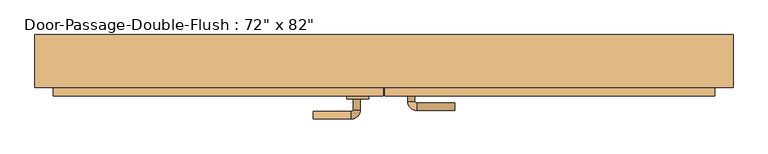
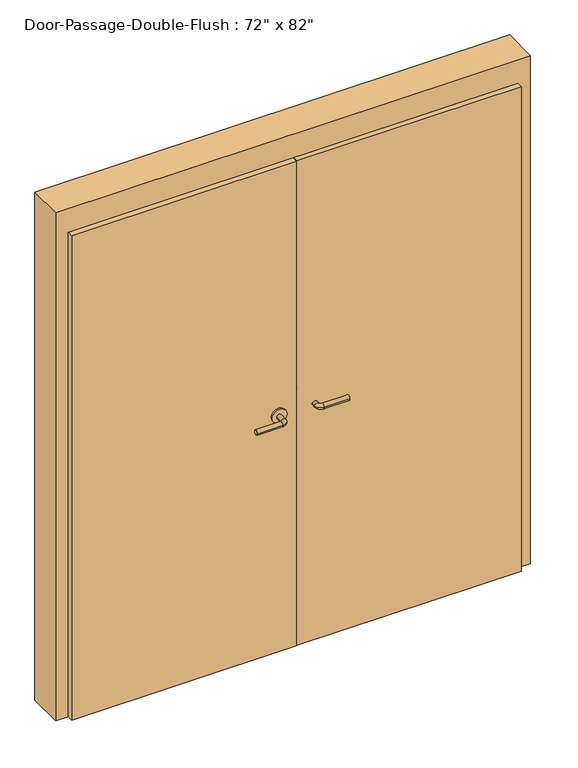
"""IFC4 building model written with IfcOpenShell, lengths in millimetres: door geometry."""

from ifc_helpers import new_model, si_unit, point, frame, frame_2d, origin, origin_with_axes, place, context, project, spatial, polyline, circle_curve, ellipse_curve, trimmed, segment, composite_curve, outline, extrude, faceted_brep, source, transform, mapped, element, save
from ifc_brep_helpers import plane_surface, cylinder_surface, revolved_surface, advanced_brep


def door_df8e76c5(model_context):
    return source(origin(), model_context, "Body", "SolidModel", [
        advanced_brep(
        [(-65.009375, -6.2875, 1016.0), (-85.009375, -6.2875, 1016.0), (-85.009375, 23.7125, 1016.0), (-65.009375, 23.7125, 1016.0), (-90.009375, 28.7125, 1016.0), (-90.009375, 48.7125, 1016.0), (-195.009375, 48.7125, 1016.0), (-195.009375, 28.7125, 1016.0)],
        [
            (0, 1, circle_curve(frame((-75.009375, -6.2875, 1016.0), z_axis=(0.0, -1.0, 0.0), x_axis=(-1.0, 0.0, 0.0)), 10.0)),
            (1, 0, circle_curve(frame((-75.009375, -6.2875, 1016.0), z_axis=(0.0, -1.0, 0.0), x_axis=(-1.0, 0.0, 0.0)), 10.0)),
            (1, 2),
            (2, 3, circle_curve(frame((-75.009375, 23.7125, 1016.0), z_axis=(0.0, -1.0, 0.0), x_axis=(-1.0, 0.0, 0.0)), 10.0)),
            (3, 0),
            (3, 2, circle_curve(frame((-75.009375, 23.7125, 1016.0), z_axis=(0.0, -1.0, 0.0), x_axis=(-1.0, 0.0, 0.0)), 10.0)),
            (4, 5, circle_curve(frame((-90.009375, 38.7125, 1016.0), z_axis=(1.0, 0.0, 0.0), x_axis=(0.0, -1.0, 0.0)), 10.0)),
            (5, 3, circle_curve(frame((-90.009375, 23.7125, 1016.0), z_axis=(0.0, 0.0, -1.0), x_axis=(1.0, 0.0, 0.0)), 25.0)),
            (2, 4, circle_curve(frame((-90.009375, 23.7125, 1016.0), z_axis=(0.0, 0.0, 1.0), x_axis=(1.0, 0.0, 0.0)), 5.0)),
            (5, 4, circle_curve(frame((-90.009375, 38.7125, 1016.0), z_axis=(1.0, 0.0, 0.0), x_axis=(0.0, -1.0, 0.0)), 10.0)),
            (6, 7, circle_curve(frame((-195.009375, 38.7125, 1016.0), z_axis=(-1.0, 0.0, 0.0), x_axis=(0.0, -1.0, 0.0)), 10.0)),
            (7, 6, circle_curve(frame((-195.009375, 38.7125, 1016.0), z_axis=(-1.0, 0.0, 0.0), x_axis=(0.0, -1.0, 0.0)), 10.0)),
            (4, 7),
            (6, 5),
        ],
        [
            plane_surface(frame((-75.009375, -6.2875, 1016.0), z_axis=(0.0, -1.0, 0.0), x_axis=(0.0, 0.0, 1.0))),
            cylinder_surface(frame((-75.009375, -6.2875, 1016.0), z_axis=(0.0, -1.0, 0.0), x_axis=(-1.0, 0.0, 0.0)), 10.0),
            revolved_surface(trimmed(ellipse_curve(frame((-75.009375, 23.7125, 1016.0), z_axis=(0.0, 1.0, 0.0), x_axis=(-1.0, 0.0, 0.0)), 10.0, 10.0), [point((-65.009375, 23.7125, 1016.0))], [point((-85.009375, 23.7125, 1016.0))], True, "CARTESIAN"), (-90.009375, 23.7125, 1016.0), (0.0, 0.0, -1.0)),
            revolved_surface(trimmed(ellipse_curve(frame((-75.009375, 23.7125, 1016.0), z_axis=(0.0, 1.0, 0.0), x_axis=(-1.0, 0.0, 0.0)), 10.0, 10.0), [point((-85.009375, 23.7125, 1016.0))], [point((-65.009375, 23.7125, 1016.0))], True, "CARTESIAN"), (-90.009375, 23.7125, 1016.0), (0.0, 0.0, -1.0)),
            plane_surface(frame((-195.009375, 38.7125, 1016.0), z_axis=(-1.0, 0.0, 0.0), x_axis=(0.0, 0.0, 1.0))),
            cylinder_surface(frame((-90.009375, 38.7125, 1016.0), z_axis=(1.0, 0.0, 0.0), x_axis=(0.0, -1.0, 0.0)), 10.0),
        ],
        [
            (0, [[1, 2]]),
            (1, [[3, 4, 5, -2]]),
            (1, [[-5, 6, -3, -1]]),
            (2, [[7, 8, -4, 9]]),
            (3, [[10, -9, -6, -8]]),
            (4, [[11, 12]]),
            (5, [[13, -11, 14, -7]]),
            (5, [[-14, -12, -13, -10]]),
        ],
    ),
        extrude(outline(composite_curve([segment(trimmed(circle_curve(frame_2d((1016.0, -72.509375)), 30.0), [point((1016.0, -42.509375))], [point((1016.0, -102.509375))], False, "CARTESIAN"), True, "CONTINUOUS"), segment(trimmed(circle_curve(frame_2d((1016.0, -72.509375)), 30.0), [point((1016.0, -102.509375))], [point((1016.0, -42.509375))], False, "CARTESIAN"), True, "CONTINUOUS")], self_intersect=False)), frame((0.0, -14.2875, 0.0), z_axis=(0.0, 1.0, 0.0), x_axis=(0.0, 0.0, 1.0)), (0.0, 0.0, 1.0), 8.0),
        advanced_brep(
        [(-65.009375, -90.55, 1016.0), (-85.009375, -90.55, 1016.0), (-65.009375, -120.55, 1016.0), (-85.009375, -120.55, 1016.0), (-90.009375, -125.55, 1016.0), (-90.009375, -145.55, 1016.0), (-195.009375, -145.55, 1016.0), (-195.009375, -125.55, 1016.0)],
        [
            (0, 1, circle_curve(frame((-75.009375, -90.55, 1016.0), z_axis=(0.0, 1.0, 0.0), x_axis=(-1.0, 0.0, 0.0)), 10.0)),
            (1, 0, circle_curve(frame((-75.009375, -90.55, 1016.0), z_axis=(0.0, 1.0, 0.0), x_axis=(-1.0, 0.0, 0.0)), 10.0)),
            (0, 2),
            (2, 3, circle_curve(frame((-75.009375, -120.55, 1016.0), z_axis=(0.0, 1.0, 0.0), x_axis=(-1.0, 0.0, 0.0)), 10.0)),
            (3, 1),
            (3, 2, circle_curve(frame((-75.009375, -120.55, 1016.0), z_axis=(0.0, 1.0, 0.0), x_axis=(-1.0, 0.0, 0.0)), 10.0)),
            (4, 3, circle_curve(frame((-90.009375, -120.55, 1016.0), z_axis=(0.0, 0.0, 1.0), x_axis=(1.0, 0.0, 0.0)), 5.0)),
            (2, 5, circle_curve(frame((-90.009375, -120.55, 1016.0), z_axis=(0.0, 0.0, -1.0), x_axis=(1.0, 0.0, 0.0)), 25.0)),
            (5, 4, circle_curve(frame((-90.009375, -135.55, 1016.0), z_axis=(1.0, 0.0, 0.0), x_axis=(0.0, 1.0, 0.0)), 10.0)),
            (4, 5, circle_curve(frame((-90.009375, -135.55, 1016.0), z_axis=(1.0, 0.0, 0.0), x_axis=(0.0, 1.0, 0.0)), 10.0)),
            (6, 7, circle_curve(frame((-195.009375, -135.55, 1016.0), z_axis=(-1.0, 0.0, 0.0), x_axis=(0.0, 1.0, 0.0)), 10.0)),
            (7, 6, circle_curve(frame((-195.009375, -135.55, 1016.0), z_axis=(-1.0, 0.0, 0.0), x_axis=(0.0, 1.0, 0.0)), 10.0)),
            (5, 6),
            (7, 4),
        ],
        [
            plane_surface(frame((-75.009375, -90.55, 1016.0), z_axis=(0.0, 1.0, 0.0), x_axis=(0.0, 0.0, 1.0))),
            cylinder_surface(frame((-75.009375, -90.55, 1016.0), z_axis=(0.0, 1.0, 0.0), x_axis=(-1.0, 0.0, 0.0)), 10.0),
            revolved_surface(trimmed(ellipse_curve(frame((-75.009375, -120.55, 1016.0), z_axis=(0.0, 1.0, 0.0), x_axis=(-1.0, 0.0, 0.0)), 10.0, 10.0), [point((-65.009375, -120.55, 1016.0))], [point((-85.009375, -120.55, 1016.0))], True, "CARTESIAN"), (-90.009375, -120.55, 1016.0), (0.0, 0.0, -1.0)),
            revolved_surface(trimmed(ellipse_curve(frame((-75.009375, -120.55, 1016.0), z_axis=(0.0, 1.0, 0.0), x_axis=(-1.0, 0.0, 0.0)), 10.0, 10.0), [point((-85.009375, -120.55, 1016.0))], [point((-65.009375, -120.55, 1016.0))], True, "CARTESIAN"), (-90.009375, -120.55, 1016.0), (0.0, 0.0, -1.0)),
            plane_surface(frame((-195.009375, -135.55, 1016.0), z_axis=(-1.0, 0.0, 0.0), x_axis=(0.0, 0.0, 1.0))),
            cylinder_surface(frame((-90.009375, -135.55, 1016.0), z_axis=(1.0, 0.0, 0.0), x_axis=(0.0, 1.0, 0.0)), 10.0),
        ],
        [
            (0, [[1, 2]]),
            (1, [[-1, 3, 4, 5]]),
            (1, [[-2, -5, 6, -3]]),
            (2, [[7, -4, 8, 9]]),
            (3, [[-8, -6, -7, 10]]),
            (4, [[11, 12]]),
            (5, [[-9, 13, -12, 14]]),
            (5, [[-10, -14, -11, -13]]),
        ],
    ),
        extrude(outline(composite_curve([segment(trimmed(circle_curve(frame_2d((1016.0, -72.509375)), 30.0), [point((1016.0, -42.509375))], [point((1016.0, -102.509375))], False, "CARTESIAN"), True, "CONTINUOUS"), segment(trimmed(circle_curve(frame_2d((1016.0, -72.509375)), 30.0), [point((1016.0, -102.509375))], [point((1016.0, -42.509375))], False, "CARTESIAN"), True, "CONTINUOUS")], self_intersect=False)), frame((0.0, -90.55, 0.0), z_axis=(0.0, 1.0, 0.0), x_axis=(0.0, 0.0, 1.0)), (0.0, 0.0, 1.0), 8.0),
        advanced_brep(
        [(65.009375, -6.2875, 1016.0), (85.009375, -6.2875, 1016.0), (65.009375, 23.7125, 1016.0), (85.009375, 23.7125, 1016.0), (90.009375, 28.7125, 1016.0), (90.009375, 48.7125, 1016.0), (195.009375, 48.7125, 1016.0), (195.009375, 28.7125, 1016.0)],
        [
            (0, 1, circle_curve(frame((75.009375, -6.2875, 1016.0), z_axis=(0.0, -1.0, 0.0), x_axis=(1.0, 0.0, 0.0)), 10.0)),
            (1, 0, circle_curve(frame((75.009375, -6.2875, 1016.0), z_axis=(0.0, -1.0, 0.0), x_axis=(1.0, 0.0, 0.0)), 10.0)),
            (0, 2),
            (2, 3, circle_curve(frame((75.009375, 23.7125, 1016.0), z_axis=(0.0, -1.0, 0.0), x_axis=(1.0, 0.0, 0.0)), 10.0)),
            (3, 1),
            (3, 2, circle_curve(frame((75.009375, 23.7125, 1016.0), z_axis=(0.0, -1.0, 0.0), x_axis=(1.0, 0.0, 0.0)), 10.0)),
            (4, 3, circle_curve(frame((90.009375, 23.7125, 1016.0), z_axis=(0.0, 0.0, 1.0), x_axis=(-1.0, 0.0, 0.0)), 5.0)),
            (2, 5, circle_curve(frame((90.009375, 23.7125, 1016.0), z_axis=(0.0, 0.0, -1.0), x_axis=(-1.0, 0.0, 0.0)), 25.0)),
            (5, 4, circle_curve(frame((90.009375, 38.7125, 1016.0), z_axis=(-1.0, 0.0, 0.0), x_axis=(0.0, -1.0, 0.0)), 10.0)),
            (4, 5, circle_curve(frame((90.009375, 38.7125, 1016.0), z_axis=(-1.0, 0.0, 0.0), x_axis=(0.0, -1.0, 0.0)), 10.0)),
            (6, 7, circle_curve(frame((195.009375, 38.7125, 1016.0), z_axis=(1.0, 0.0, 0.0), x_axis=(0.0, -1.0, 0.0)), 10.0)),
            (7, 6, circle_curve(frame((195.009375, 38.7125, 1016.0), z_axis=(1.0, 0.0, 0.0), x_axis=(0.0, -1.0, 0.0)), 10.0)),
            (5, 6),
            (7, 4),
        ],
        [
            plane_surface(frame((75.009375, -6.2875, 1016.0), z_axis=(0.0, -1.0, 0.0), x_axis=(0.0, 0.0, 1.0))),
            cylinder_surface(frame((75.009375, -6.2875, 1016.0), z_axis=(0.0, -1.0, 0.0), x_axis=(1.0, 0.0, 0.0)), 10.0),
            revolved_surface(trimmed(ellipse_curve(frame((75.009375, 23.7125, 1016.0), z_axis=(0.0, -1.0, 0.0), x_axis=(1.0, 0.0, 0.0)), 10.0, 10.0), [point((65.009375, 23.7125, 1016.0))], [point((85.009375, 23.7125, 1016.0))], True, "CARTESIAN"), (90.009375, 23.7125, 1016.0), (0.0, 0.0, -1.0)),
            revolved_surface(trimmed(ellipse_curve(frame((75.009375, 23.7125, 1016.0), z_axis=(0.0, -1.0, 0.0), x_axis=(1.0, 0.0, 0.0)), 10.0, 10.0), [point((85.009375, 23.7125, 1016.0))], [point((65.009375, 23.7125, 1016.0))], True, "CARTESIAN"), (90.009375, 23.7125, 1016.0), (0.0, 0.0, -1.0)),
            plane_surface(frame((195.009375, 38.7125, 1016.0), z_axis=(1.0, 0.0, 0.0), x_axis=(0.0, 0.0, 1.0))),
            cylinder_surface(frame((90.009375, 38.7125, 1016.0), z_axis=(-1.0, 0.0, 0.0), x_axis=(0.0, -1.0, 0.0)), 10.0),
        ],
        [
            (0, [[1, 2]]),
            (1, [[-1, 3, 4, 5]]),
            (1, [[-2, -5, 6, -3]]),
            (2, [[7, -4, 8, 9]]),
            (3, [[-8, -6, -7, 10]]),
            (4, [[11, 12]]),
            (5, [[-9, 13, -12, 14]]),
            (5, [[-10, -14, -11, -13]]),
        ],
    ),
        extrude(outline(composite_curve([segment(trimmed(circle_curve(frame_2d((1016.0, 72.509375)), 30.0), [point((1016.0, 42.509375))], [point((1016.0, 102.509375))], False, "CARTESIAN"), True, "CONTINUOUS"), segment(trimmed(circle_curve(frame_2d((1016.0, 72.509375)), 30.0), [point((1016.0, 102.509375))], [point((1016.0, 42.509375))], False, "CARTESIAN"), True, "CONTINUOUS")], self_intersect=False)), frame((0.0, -14.2875, 0.0), z_axis=(0.0, 1.0, 0.0), x_axis=(0.0, 0.0, 1.0)), (0.0, 0.0, 1.0), 8.0),
        advanced_brep(
        [(65.009375, -66.7375, 1016.0), (85.009375, -66.7375, 1016.0), (85.009375, -96.7375, 1016.0), (65.009375, -96.7375, 1016.0), (90.009375, -101.7375, 1016.0), (90.009375, -121.7375, 1016.0), (195.009375, -121.7375, 1016.0), (195.009375, -101.7375, 1016.0)],
        [
            (0, 1, circle_curve(frame((75.009375, -66.7375, 1016.0), z_axis=(0.0, 1.0, 0.0), x_axis=(1.0, 0.0, 0.0)), 10.0)),
            (1, 0, circle_curve(frame((75.009375, -66.7375, 1016.0), z_axis=(0.0, 1.0, 0.0), x_axis=(1.0, 0.0, 0.0)), 10.0)),
            (1, 2),
            (2, 3, circle_curve(frame((75.009375, -96.7375, 1016.0), z_axis=(0.0, 1.0, 0.0), x_axis=(1.0, 0.0, 0.0)), 10.0)),
            (3, 0),
            (3, 2, circle_curve(frame((75.009375, -96.7375, 1016.0), z_axis=(0.0, 1.0, 0.0), x_axis=(1.0, 0.0, 0.0)), 10.0)),
            (4, 5, circle_curve(frame((90.009375, -111.7375, 1016.0), z_axis=(-1.0, 0.0, 0.0), x_axis=(0.0, 1.0, 0.0)), 10.0)),
            (5, 3, circle_curve(frame((90.009375, -96.7375, 1016.0), z_axis=(0.0, 0.0, -1.0), x_axis=(-1.0, 0.0, 0.0)), 25.0)),
            (2, 4, circle_curve(frame((90.009375, -96.7375, 1016.0), z_axis=(0.0, 0.0, 1.0), x_axis=(-1.0, 0.0, 0.0)), 5.0)),
            (5, 4, circle_curve(frame((90.009375, -111.7375, 1016.0), z_axis=(-1.0, 0.0, 0.0), x_axis=(0.0, 1.0, 0.0)), 10.0)),
            (6, 7, circle_curve(frame((195.009375, -111.7375, 1016.0), z_axis=(1.0, 0.0, 0.0), x_axis=(0.0, 1.0, 0.0)), 10.0)),
            (7, 6, circle_curve(frame((195.009375, -111.7375, 1016.0), z_axis=(1.0, 0.0, 0.0), x_axis=(0.0, 1.0, 0.0)), 10.0)),
            (4, 7),
            (6, 5),
        ],
        [
            plane_surface(frame((75.009375, -66.7375, 1016.0), z_axis=(0.0, 1.0, 0.0), x_axis=(0.0, 0.0, 1.0))),
            cylinder_surface(frame((75.009375, -66.7375, 1016.0), z_axis=(0.0, 1.0, 0.0), x_axis=(1.0, 0.0, 0.0)), 10.0),
            revolved_surface(trimmed(ellipse_curve(frame((75.009375, -96.7375, 1016.0), z_axis=(0.0, -1.0, 0.0), x_axis=(1.0, 0.0, 0.0)), 10.0, 10.0), [point((65.009375, -96.7375, 1016.0))], [point((85.009375, -96.7375, 1016.0))], True, "CARTESIAN"), (90.009375, -96.7375, 1016.0), (0.0, 0.0, -1.0)),
            revolved_surface(trimmed(ellipse_curve(frame((75.009375, -96.7375, 1016.0), z_axis=(0.0, -1.0, 0.0), x_axis=(1.0, 0.0, 0.0)), 10.0, 10.0), [point((85.009375, -96.7375, 1016.0))], [point((65.009375, -96.7375, 1016.0))], True, "CARTESIAN"), (90.009375, -96.7375, 1016.0), (0.0, 0.0, -1.0)),
            plane_surface(frame((195.009375, -111.7375, 1016.0), z_axis=(1.0, 0.0, 0.0), x_axis=(0.0, 0.0, 1.0))),
            cylinder_surface(frame((90.009375, -111.7375, 1016.0), z_axis=(-1.0, 0.0, 0.0), x_axis=(0.0, 1.0, 0.0)), 10.0),
        ],
        [
            (0, [[1, 2]]),
            (1, [[3, 4, 5, -2]]),
            (1, [[-5, 6, -3, -1]]),
            (2, [[7, 8, -4, 9]]),
            (3, [[10, -9, -6, -8]]),
            (4, [[11, 12]]),
            (5, [[13, -11, 14, -7]]),
            (5, [[-14, -12, -13, -10]]),
        ],
    ),
        extrude(outline(composite_curve([segment(trimmed(circle_curve(frame_2d((1016.0, 72.509375)), 30.0), [point((1016.0, 42.509375))], [point((1016.0, 102.509375))], False, "CARTESIAN"), True, "CONTINUOUS"), segment(trimmed(circle_curve(frame_2d((1016.0, 72.509375)), 30.0), [point((1016.0, 102.509375))], [point((1016.0, 42.509375))], False, "CARTESIAN"), True, "CONTINUOUS")], self_intersect=False)), frame((0.0, -66.7375, 0.0), z_axis=(0.0, 1.0, 0.0), x_axis=(0.0, 0.0, 1.0)), (0.0, 0.0, 1.0), 8.0),
        faceted_brep([(914.4, -9.525, 0.0), (898.525, -9.525, 0.0), (898.525, 38.1, 0.0), (914.4, 38.1, 0.0), (914.4, 87.3125, 0.0), (965.2, 87.3125, 0.0), (965.2, -58.7375, 0.0), (914.4, -58.7375, 0.0), (914.4, -58.7375, 2082.8), (914.4, -9.525, 2082.8), (965.2, -58.7375, 2184.4), (-965.2, -58.7375, 2184.4), (-965.2, -58.7375, 0.0), (-914.4, -58.7375, 0.0), (-914.4, -58.7375, 2082.8), (965.2, 87.3125, 2184.4), (914.4, 87.3125, 2082.8), (-914.4, 87.3125, 2082.8), (-914.4, 87.3125, 0.0), (-965.2, 87.3125, 0.0), (-965.2, 87.3125, 2184.4), (914.4, 38.1, 2082.8), (898.525, 38.1, 2066.925), (-898.525, 38.1, 2066.925), (-898.525, 38.1, 0.0), (-914.4, 38.1, 0.0), (-914.4, 38.1, 2082.8), (898.525, -9.525, 2066.925), (-914.4, -9.525, 2082.8), (-914.4, -9.525, 0.0), (-898.525, -9.525, 0.0), (-898.525, -9.525, 2066.925)], [[[0, 1, 2, 3, 4, 5, 6, 7]], [[7, 8, 9, 0]], [[6, 10, 11, 12, 13, 14, 8, 7]], [[5, 15, 10, 6]], [[4, 16, 17, 18, 19, 20, 15, 5]], [[3, 21, 16, 4]], [[2, 22, 23, 24, 25, 26, 21, 3]], [[1, 27, 22, 2]], [[0, 9, 28, 29, 30, 31, 27, 1]], [[8, 14, 28, 9]], [[16, 21, 26, 17]], [[22, 27, 31, 23]], [[12, 19, 18, 25, 24, 30, 29, 13]], [[13, 29, 28, 14]], [[11, 20, 19, 12]], [[17, 26, 25, 18]], [[23, 31, 30, 24]], [[15, 20, 11, 10]]]),
        extrude(outline(polyline([(914.4, -14.2875), (914.4, -82.55), (1.5875, -82.55), (1.5875, -14.2875), (914.4, -14.2875)])), origin_with_axes(), (0.0, 0.0, 1.0), 2082.8),
        extrude(outline(polyline([(-1.5875, -14.2875), (-1.5875, -82.55), (-914.4, -82.55), (-914.4, -14.2875), (-1.5875, -14.2875)])), origin_with_axes(), (0.0, 0.0, 1.0), 2082.8),
    ])


if __name__ == "__main__":
    model = new_model("IFC4")
    model_context = context("Model", 3, world=origin())
    ifc_project = project(units=[si_unit("LENGTHUNIT", "METRE", prefix="MILLI")], contexts=[model_context])
    site = spatial("IfcSite", under=ifc_project)
    building = spatial("IfcBuilding", under=site)
    placement = place(None, origin())
    door_shape = door_df8e76c5(model_context)
    element("IfcDoor", 1, ObjectType="Door-Passage-Double-Flush : 72\" x 82\"", at=placement, inside=building, context=model_context, shape_type="MappedRepresentation", body=[
        mapped(door_shape, transform((0.0, 0.0, 0.0), x_axis=(1.0, 0.0, 0.0), y_axis=(0.0, 1.0, 0.0), z_axis=(0.0, 0.0, 1.0))),
    ])
    save(model, "model.ifc")
